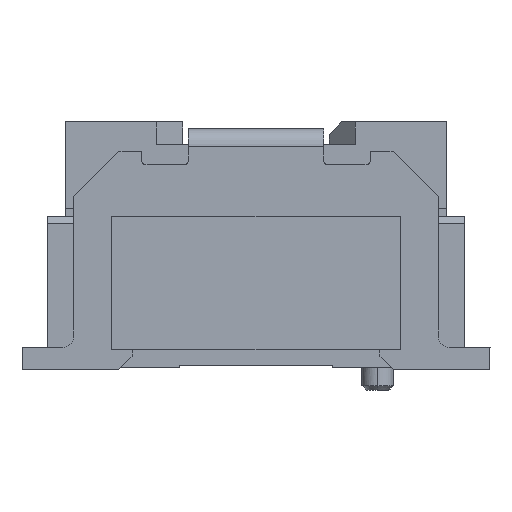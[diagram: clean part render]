
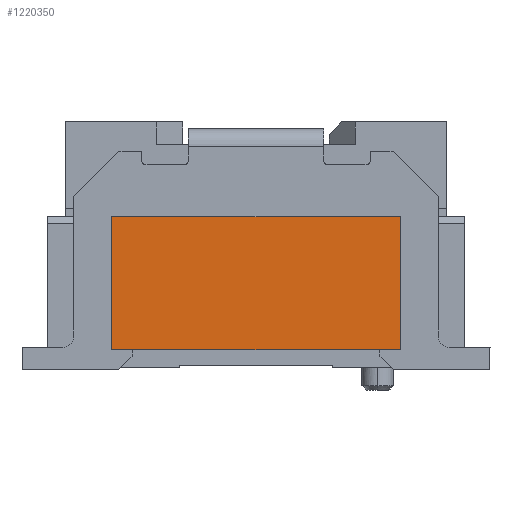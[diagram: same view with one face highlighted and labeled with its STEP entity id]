
A CAD part, left-side view. The second image highlights one B-rep face of the part: STEP entity #1220350.
In plain terms, the highlighted planar face has unit normal (-1, 0, 0).
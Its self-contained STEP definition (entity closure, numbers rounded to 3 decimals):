
#1205140=CARTESIAN_POINT('',(-26.893,-0.02,
-3.22));
#1205150=VERTEX_POINT('',#1205140);
#1205180=CARTESIAN_POINT('',(-26.893,-0.02,
-5.031));
#1205190=DIRECTION('',(0.,0.,-1.));
#1205200=VECTOR('',#1205190,1.);
#1205210=LINE('',#1205180,#1205200);
#1205220=CARTESIAN_POINT('',(-26.893,-0.02,
3.18));
#1205230=VERTEX_POINT('',#1205220);
#1205240=EDGE_CURVE('',#1205230,#1205150,#1205210,.T.);
#1219530=CARTESIAN_POINT('',(-26.893,2.93,
-3.22));
#1219540=VERTEX_POINT('',#1219530);
#1219570=CARTESIAN_POINT('',(-26.893,-0.507,
-3.22));
#1219580=DIRECTION('',(0.,-1.,0.))
;
#1219590=VECTOR('',#1219580,1.);
#1219600=LINE('',#1219570,#1219590);
#1219610=EDGE_CURVE('',#1219540,#1205150,#1219600,.T.);
#1219850=CARTESIAN_POINT('',(-26.893,-0.507,
3.18));
#1219860=DIRECTION('',(0.,1.,0.));
#1219870=VECTOR('',#1219860,1.);
#1219880=LINE('',#1219850,#1219870);
#1219890=CARTESIAN_POINT('',(-26.893,2.93,
3.18));
#1219900=VERTEX_POINT('',#1219890);
#1219910=EDGE_CURVE('',#1205230,#1219900,#1219880,.T.);
#1220190=CARTESIAN_POINT('',(-26.893,2.93,
4.88));
#1220200=DIRECTION('',(-1.,0.,0.));
#1220210=DIRECTION('',(0.,1.,0.));
#1220220=AXIS2_PLACEMENT_3D('',#1220190,#1220200,#1220210);
#1220230=PLANE('',#1220220);
#1220240=ORIENTED_EDGE('',*,*,#1205240,.F.);
#1220250=ORIENTED_EDGE('',*,*,#1219610,.T.);
#1220260=CARTESIAN_POINT('',(-26.893,2.93,
-5.031));
#1220270=DIRECTION('',(0.,0.,-1.));
#1220280=VECTOR('',#1220270,1.);
#1220290=LINE('',#1220260,#1220280);
#1220300=EDGE_CURVE('',#1219900,#1219540,#1220290,.T.);
#1220310=ORIENTED_EDGE('',*,*,#1220300,.T.);
#1220320=ORIENTED_EDGE('',*,*,#1219910,.T.);
#1220330=EDGE_LOOP('',(#1220320,#1220310,#1220250,#1220240));
#1220340=FACE_OUTER_BOUND('',#1220330,.T.);
#1220350=ADVANCED_FACE('',(#1220340),#1220230,.T.);
